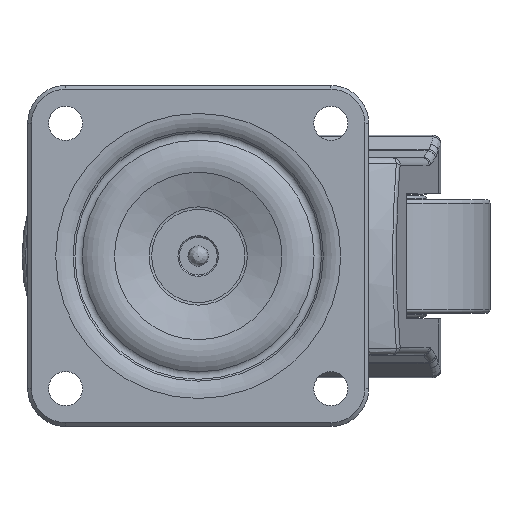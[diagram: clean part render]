
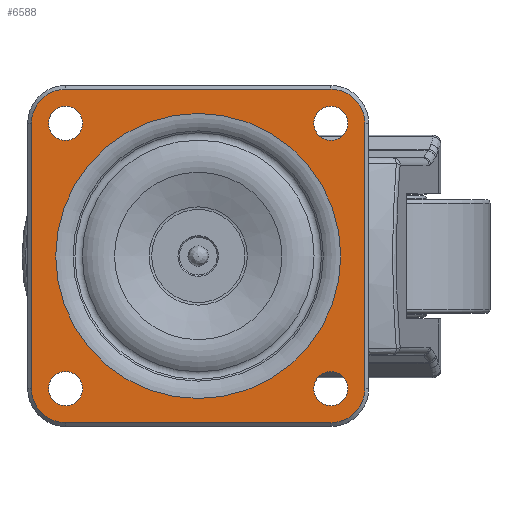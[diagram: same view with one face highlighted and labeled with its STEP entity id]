
A CAD part, top view. The second image highlights one B-rep face of the part: STEP entity #6588.
In plain terms, the highlighted planar face has unit normal (0, 0, 1).
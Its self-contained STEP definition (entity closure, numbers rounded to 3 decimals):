
#2643=LINE('',#88570,#3704);
#2648=LINE('',#88583,#3709);
#2652=LINE('',#88595,#3713);
#2654=LINE('',#88603,#3715);
#3704=VECTOR('',#27784,1.);
#3709=VECTOR('',#27797,1.);
#3713=VECTOR('',#27809,1.);
#3715=VECTOR('',#27819,1.);
#5297=PLANE('',#22725);
#6588=ADVANCED_FACE('',(#6944,#6945,#6946,#6947,#6948,#6949),#5297,.T.);
#6944=FACE_BOUND('',#8309,.T.);
#6945=FACE_BOUND('',#8310,.T.);
#6946=FACE_BOUND('',#8311,.T.);
#6947=FACE_BOUND('',#8312,.T.);
#6948=FACE_BOUND('',#8313,.T.);
#6949=FACE_BOUND('',#8314,.T.);
#8309=EDGE_LOOP('',(#14441,#14442,#14443,#14444,#14445,#14446,#14447,#14448));
#8310=EDGE_LOOP('',(#14449));
#8311=EDGE_LOOP('',(#14450));
#8312=EDGE_LOOP('',(#14451));
#8313=EDGE_LOOP('',(#14452));
#8314=EDGE_LOOP('',(#14453));
#14441=ORIENTED_EDGE('',*,*,#19606,.F.);
#14442=ORIENTED_EDGE('',*,*,#19584,.F.);
#14443=ORIENTED_EDGE('',*,*,#19589,.F.);
#14444=ORIENTED_EDGE('',*,*,#19591,.F.);
#14445=ORIENTED_EDGE('',*,*,#19596,.F.);
#14446=ORIENTED_EDGE('',*,*,#19597,.F.);
#14447=ORIENTED_EDGE('',*,*,#19602,.F.);
#14448=ORIENTED_EDGE('',*,*,#19603,.F.);
#14449=ORIENTED_EDGE('',*,*,#19583,.F.);
#14450=ORIENTED_EDGE('',*,*,#19608,.T.);
#14451=ORIENTED_EDGE('',*,*,#19609,.T.);
#14452=ORIENTED_EDGE('',*,*,#19610,.T.);
#14453=ORIENTED_EDGE('',*,*,#19611,.T.);
#16510=VERTEX_POINT('',#88556);
#16511=VERTEX_POINT('',#88559);
#16512=VERTEX_POINT('',#88560);
#16516=VERTEX_POINT('',#88569);
#16517=VERTEX_POINT('',#88574);
#16520=VERTEX_POINT('',#88582);
#16521=VERTEX_POINT('',#88586);
#16524=VERTEX_POINT('',#88594);
#16525=VERTEX_POINT('',#88598);
#16527=VERTEX_POINT('',#88607);
#16528=VERTEX_POINT('',#88609);
#16529=VERTEX_POINT('',#88611);
#16530=VERTEX_POINT('',#88613);
#19583=EDGE_CURVE('',#16510,#16510,#20684,.T.);
#19584=EDGE_CURVE('',#16511,#16512,#20685,.T.);
#19589=EDGE_CURVE('',#16516,#16511,#2643,.T.);
#19591=EDGE_CURVE('',#16517,#16516,#20687,.T.);
#19596=EDGE_CURVE('',#16520,#16517,#2648,.T.);
#19597=EDGE_CURVE('',#16521,#16520,#20689,.T.);
#19602=EDGE_CURVE('',#16524,#16521,#2652,.T.);
#19603=EDGE_CURVE('',#16525,#16524,#20691,.T.);
#19606=EDGE_CURVE('',#16512,#16525,#2654,.T.);
#19608=EDGE_CURVE('',#16527,#16527,#20693,.T.);
#19609=EDGE_CURVE('',#16528,#16528,#20694,.T.);
#19610=EDGE_CURVE('',#16529,#16529,#20695,.T.);
#19611=EDGE_CURVE('',#16530,#16530,#20696,.T.);
#20684=CIRCLE('',#22703,37.619);
#20685=CIRCLE('',#22705,9.);
#20687=CIRCLE('',#22709,9.);
#20689=CIRCLE('',#22713,9.);
#20691=CIRCLE('',#22717,9.);
#20693=CIRCLE('',#22721,4.5);
#20694=CIRCLE('',#22722,4.5);
#20695=CIRCLE('',#22723,4.5);
#20696=CIRCLE('',#22724,4.5);
#22703=AXIS2_PLACEMENT_3D('',#88555,#27771,#27772);
#22705=AXIS2_PLACEMENT_3D('',#88558,#27775,#27776);
#22709=AXIS2_PLACEMENT_3D('',#88573,#27788,#27789);
#22713=AXIS2_PLACEMENT_3D('',#88585,#27800,#27801);
#22717=AXIS2_PLACEMENT_3D('',#88597,#27812,#27813);
#22721=AXIS2_PLACEMENT_3D('',#88606,#27823,#27824);
#22722=AXIS2_PLACEMENT_3D('',#88608,#27825,#27826);
#22723=AXIS2_PLACEMENT_3D('',#88610,#27827,#27828);
#22724=AXIS2_PLACEMENT_3D('',#88612,#27829,#27830);
#22725=AXIS2_PLACEMENT_3D('',#88614,#27831,#27832);
#27771=DIRECTION('',(0.,0.,1.));
#27772=DIRECTION('',(-1.,0.,0.));
#27775=DIRECTION('',(0.,0.,-1.));
#27776=DIRECTION('',(0.707,-0.707,0.));
#27784=DIRECTION('',(0.,-1.,0.));
#27788=DIRECTION('',(0.,0.,-1.));
#27789=DIRECTION('',(0.707,0.707,0.));
#27797=DIRECTION('',(1.,0.,0.));
#27800=DIRECTION('',(0.,0.,-1.));
#27801=DIRECTION('',(-0.707,0.707,0.));
#27809=DIRECTION('',(0.,1.,0.));
#27812=DIRECTION('',(0.,0.,-1.));
#27813=DIRECTION('',(-0.707,-0.707,0.));
#27819=DIRECTION('',(-1.,0.,0.));
#27823=DIRECTION('',(0.,0.,-1.));
#27824=DIRECTION('',(1.,0.,0.));
#27825=DIRECTION('',(0.,0.,-1.));
#27826=DIRECTION('',(1.,0.,0.));
#27827=DIRECTION('',(0.,0.,-1.));
#27828=DIRECTION('',(1.,0.,0.));
#27829=DIRECTION('',(0.,0.,-1.));
#27830=DIRECTION('',(1.,0.,0.));
#27831=DIRECTION('',(0.,0.,1.));
#27832=DIRECTION('',(-1.,0.,0.));
#88555=CARTESIAN_POINT('',(0.,0.,0.));
#88556=CARTESIAN_POINT('',(37.619,0.,0.));
#88558=CARTESIAN_POINT('',(35.,-35.,0.));
#88559=CARTESIAN_POINT('',(44.,-35.,0.));
#88560=CARTESIAN_POINT('',(35.,-44.,0.));
#88569=CARTESIAN_POINT('',(44.,35.,0.));
#88570=CARTESIAN_POINT('',(44.,35.,0.));
#88573=CARTESIAN_POINT('',(35.,35.,0.));
#88574=CARTESIAN_POINT('',(35.,44.,0.));
#88582=CARTESIAN_POINT('',(-35.,44.,0.));
#88583=CARTESIAN_POINT('',(-35.,44.,0.));
#88585=CARTESIAN_POINT('',(-35.,35.,0.));
#88586=CARTESIAN_POINT('',(-44.,35.,0.));
#88594=CARTESIAN_POINT('',(-44.,-35.,0.));
#88595=CARTESIAN_POINT('',(-44.,-35.,0.));
#88597=CARTESIAN_POINT('',(-35.,-35.,0.));
#88598=CARTESIAN_POINT('',(-35.,-44.,0.));
#88603=CARTESIAN_POINT('',(35.,-44.,0.));
#88606=CARTESIAN_POINT('',(35.,-35.,0.));
#88607=CARTESIAN_POINT('',(30.5,-35.,0.));
#88608=CARTESIAN_POINT('',(35.,35.,0.));
#88609=CARTESIAN_POINT('',(30.5,35.,0.));
#88610=CARTESIAN_POINT('',(-35.,-35.,0.));
#88611=CARTESIAN_POINT('',(-39.5,-35.,0.));
#88612=CARTESIAN_POINT('',(-35.,35.,0.));
#88613=CARTESIAN_POINT('',(-39.5,35.,0.));
#88614=CARTESIAN_POINT('',(-37.809,0.,0.));
